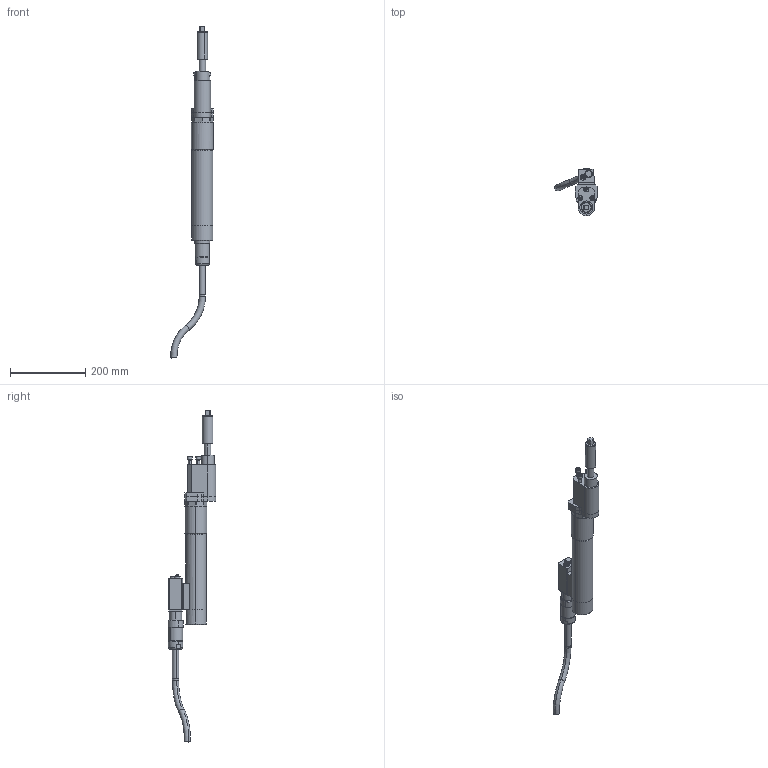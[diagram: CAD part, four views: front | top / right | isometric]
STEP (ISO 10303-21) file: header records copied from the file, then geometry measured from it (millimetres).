
FILE_DESCRIPTION(('CATIA V5 STEP Exchange'),'2;1');
FILE_NAME('C:\pro\7920148_ECR205_AO225_AllCATPart.stp','2008-11-10T09:29:52+00:00',('none'),('none'),'CATIA Version 5 Release 17 (IN-10)','CATIA V5 STEP AP203','none');
FILE_SCHEMA(('CONFIG_CONTROL_DESIGN'));
Length unit declared in the file: millimetre
Products named in the file (1): 7920148_ECR205_AO225_AllCATPart
Bounding box: 112.82 x 127.3 x 882.16 mm (x, y, z)
Volume: 1553764.1 mm3; surface area: 179252.4 mm2
Topology: 11 solids, 11 shells, 307 faces, 700 edges, 440 vertices
Faces by surface type: plane 142, cylinder 105, cone 36, torus 24
Entity records: 8230 total; most frequent: CARTESIAN_POINT 1666, ORIENTED_EDGE 1392, DIRECTION 1146, EDGE_CURVE 696, AXIS2_PLACEMENT_3D 546, VERTEX_POINT 440, VECTOR 360, LINE 360
